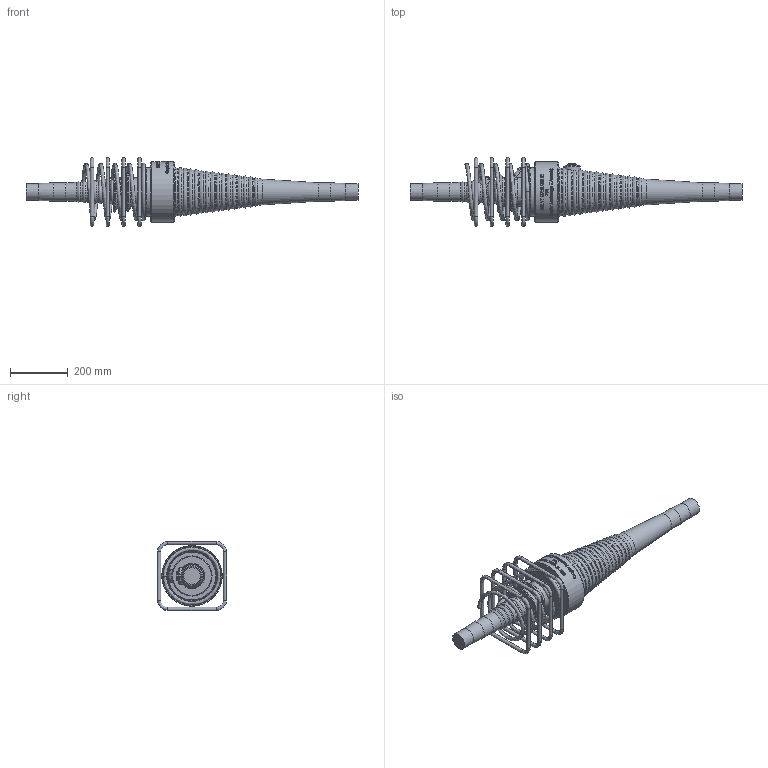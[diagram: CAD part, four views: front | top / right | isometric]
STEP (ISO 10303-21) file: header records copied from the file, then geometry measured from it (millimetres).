
FILE_DESCRIPTION(/* description */ (''),/* implementation_level */ '2;1');
FILE_NAME(/* name */ 'Z:\04 Publications\05 Give-out\BBR\6_3D_Models\BBR VT CONA CMI\BBR VT CONA CMI BT\00706\BBR VT CONA CMI BT 706_Couler K Assembly_CS-34,28.stp',/* time_stamp */ '2017-05-04T16:44:09+02:00',/* author */ ('IP'),/* organization */ (''),/* preprocessor_version */ 'ST-DEVELOPER v16.1',/* originating_system */ 'Autodesk Inventor 2016',/* authorisation */ '');
FILE_SCHEMA (('AUTOMOTIVE_DESIGN { 1 0 10303 214 3 1 1 }'));
Length unit declared in the file: millimetre
Products named in the file (1): BBR VT CONA CMI BT 706_Couler K Assembly_CS-34,28
Bounding box: 1153 x 240 x 240 mm (x, y, z)
Volume: 11769368.1 mm3; surface area: 696365.8 mm2
Topology: 6 solids, 6 shells, 926 faces, 2349 edges, 1491 vertices
Faces by surface type: bspline 412, plane 257, torus 106, cylinder 102, cone 25, sphere 24
Full cylindrical faces by diameter (mm): 12 x16, 34 x2, 57 x2, 59 x2, 64 x2, 133.801 x1, 139.387 x1, 170 x1, 203 x1, 207 x1, 210 x1
Entity records: 39716 total; most frequent: CARTESIAN_POINT 20119, ORIENTED_EDGE 4398, DIRECTION 2942, EDGE_CURVE 2199, VERTEX_POINT 1480, EDGE_LOOP 1129, AXIS2_PLACEMENT_3D 1048, FACE_OUTER_BOUND 926
